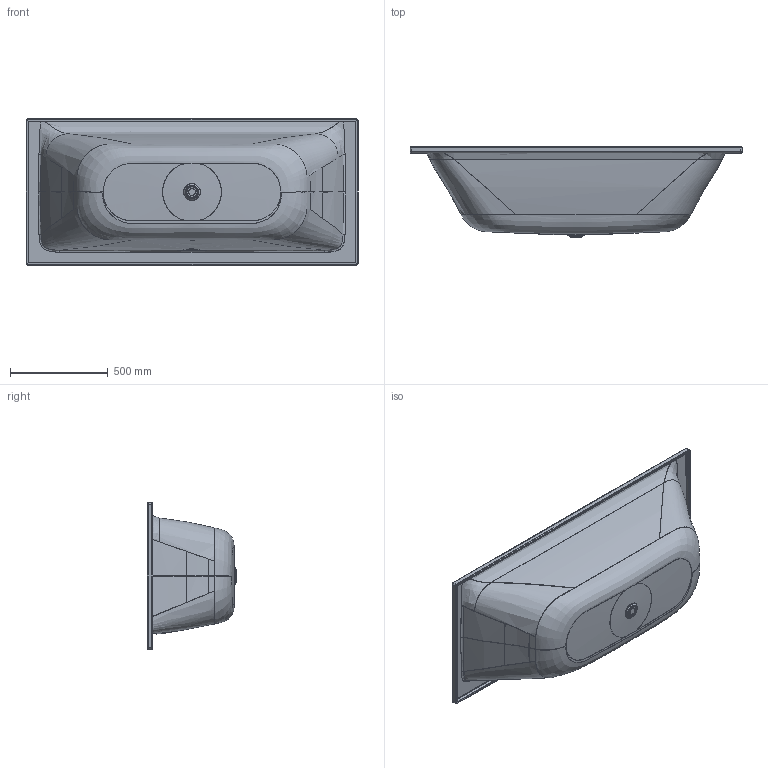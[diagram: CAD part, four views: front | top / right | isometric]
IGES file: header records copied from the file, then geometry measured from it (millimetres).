
Start section: Write IGES format                                    datakit 2008 (c)
Global section: file name: Unknown; native system: DATAKIT Converter; preprocessor: Unknown; author: Unknown; organization: Unknown; date: 950613.180003; units: millimetre
Bounding box: 1699 x 460 x 749 mm (x, y, z)
Surface area: 5049673.9 mm2 (no closed solid volume)
Topology: 0 solids, 0 shells, 169 faces, 1126 edges, 1118 vertices
Faces by surface type: revolution 89, bspline 56, offset 24
